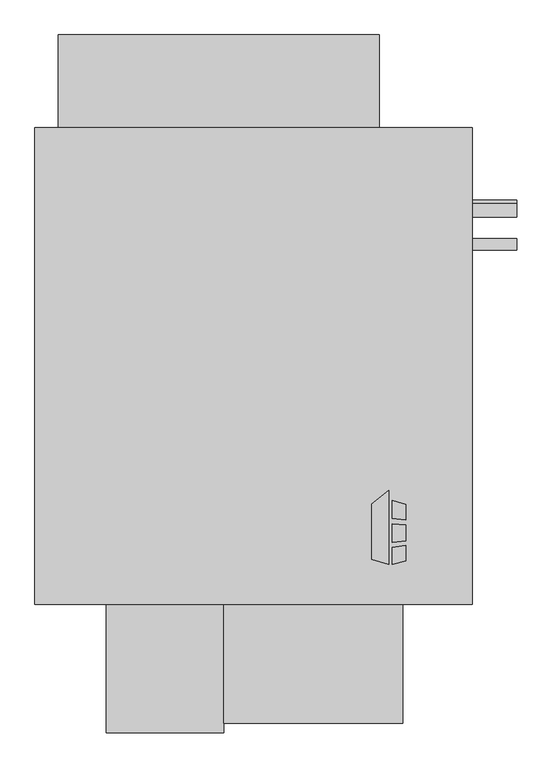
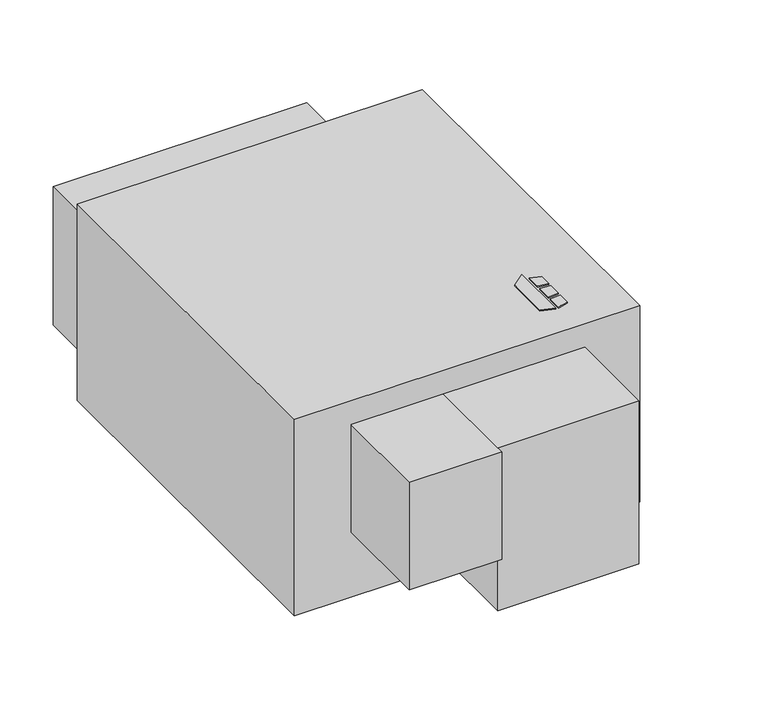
"""IFC4 building model written with IfcOpenShell, lengths in millimetres: proxy geometry, Horizontal_Direct_Drive_Blower_Coil_Unit_-_HDY_-_IEC_-_2-Pipe_Cool-EHeat_RH_2022 : Size 06 - 460v/60Hz/3Ph - 8 Row 6.0kW."""

from ifc_helpers import new_model, si_unit, point, frame, frame_2d, origin, origin_with_axes, place, context, project, spatial, polyline, circle_curve, trimmed, segment, composite_curve, outline, extrude, source, transform, mapped, element, save


def mechanical_equipment_03528db8(model_context):
    return source(origin(), model_context, "Body", "SweptSolid", [
        extrude(outline(polyline([(-420.9980239, -229.5578476), (-388.4397272, -204.1205184), (-388.4397272, -346.075), (-420.9980239, -335.8554201), (-420.9980239, -229.5578476)])), origin_with_axes(), (0.0, 0.0, 1.0), 3.175),
        extrude(outline(polyline([(-381.6813942, -257.429852), (-381.6813942, -222.9499379), (-355.6, -231.1365115), (-355.6, -260.6322446), (-381.6813942, -257.429852)])), origin_with_axes(), (0.0, 0.0, 1.0), 3.175),
        extrude(outline(polyline([(-355.6, -339.0865115), (-381.6813942, -346.075), (-381.6813942, -312.8536996), (-355.6, -309.3118564), (-355.6, -339.0865115)])), origin_with_axes(), (0.0, 0.0, 1.0), 3.175),
        extrude(outline(polyline([(-355.6, -269.7138277), (-355.6, -300.963983), (-381.6813942, -303.705248), (-381.6813942, -267.8475378), (-355.6, -269.7138277)])), origin_with_axes(), (0.0, 0.0, 1.0), 3.175),
        extrude(outline(polyline([(-228.6, 492.125), (-228.6, -422.275), (-1066.8, -422.275), (-1066.8, 492.125), (-228.6, 492.125)])), frame((0.0, 0.0, -504.8058174), z_axis=(0.0, 0.0, 1.0), x_axis=(1.0, 0.0, 0.0)), (0.0, 0.0, 1.0), 504.8058174),
        extrude(outline(polyline([(-361.95, -650.875), (-704.85, -650.875), (-704.85, -422.275), (-361.95, -422.275), (-361.95, -650.875)])), frame((0.0, 0.0, -479.4058174), z_axis=(0.0, 0.0, 1.0), x_axis=(1.0, 0.0, 0.0)), (0.0, 0.0, 1.0), 419.1),
        extrude(outline(composite_curve([segment(trimmed(circle_curve(frame_2d((333.375, -177.8)), 12.7), [point((346.075, -177.8))], [point((320.675, -177.8))], False, "CARTESIAN"), True, "CONTINUOUS"), segment(trimmed(circle_curve(frame_2d((333.375, -177.8)), 12.7), [point((320.675, -177.8))], [point((346.075, -177.8))], False, "CARTESIAN"), True, "CONTINUOUS")], self_intersect=False)), frame((-228.6, 0.0, 0.0), z_axis=(1.0, 0.0, 0.0), x_axis=(0.0, 1.0, 0.0)), (0.0, 0.0, 1.0), 85.2932),
        extrude(outline(composite_curve([segment(trimmed(circle_curve(frame_2d((340.130856, -377.8058174)), 12.7), [point((352.830856, -377.8058174))], [point((327.430856, -377.8058174))], False, "CARTESIAN"), True, "CONTINUOUS"), segment(trimmed(circle_curve(frame_2d((340.130856, -377.8058174)), 12.7), [point((327.430856, -377.8058174))], [point((352.830856, -377.8058174))], False, "CARTESIAN"), True, "CONTINUOUS")], self_intersect=False)), frame((-228.6, 0.0, 0.0), z_axis=(1.0, 0.0, 0.0), x_axis=(0.0, 1.0, 0.0)), (0.0, 0.0, 1.0), 85.2932),
        extrude(outline(composite_curve([segment(trimmed(circle_curve(frame_2d((268.4630494, -460.3558174)), 11.1125), [point((279.5755494, -460.3558174))], [point((257.3505494, -460.3558174))], False, "CARTESIAN"), True, "CONTINUOUS"), segment(trimmed(circle_curve(frame_2d((268.4630494, -460.3558174)), 11.1125), [point((257.3505494, -460.3558174))], [point((279.5755494, -460.3558174))], False, "CARTESIAN"), True, "CONTINUOUS")], self_intersect=False)), frame((-228.6, 0.0, 0.0), z_axis=(1.0, 0.0, 0.0), x_axis=(0.0, 1.0, 0.0)), (0.0, 0.0, 1.0), 85.2932),
        extrude(outline(polyline([(-1022.35, 669.925), (-406.4, 669.925), (-406.4, 492.125), (-1022.35, 492.125), (-1022.35, 669.925)])), frame((0.0, 0.0, -434.9558174), z_axis=(0.0, 0.0, 1.0), x_axis=(1.0, 0.0, 0.0)), (0.0, 0.0, 1.0), 355.6),
        extrude(outline(polyline([(-704.85, -668.3375), (-930.275, -668.3375), (-930.275, -422.275), (-704.85, -422.275), (-704.85, -668.3375)])), frame((0.0, 0.0, -336.5308174), z_axis=(0.0, 0.0, 1.0), x_axis=(1.0, 0.0, 0.0)), (0.0, 0.0, 1.0), 276.225),
    ])


if __name__ == "__main__":
    model = new_model("IFC4")
    model_context = context("Model", 3, world=origin())
    ifc_project = project(units=[si_unit("LENGTHUNIT", "METRE", prefix="MILLI")], contexts=[model_context])
    site = spatial("IfcSite", under=ifc_project)
    building = spatial("IfcBuilding", under=site)
    placement = place(None, origin())
    mechanical_equipment_shape = mechanical_equipment_03528db8(model_context)
    element("IfcBuildingElementProxy", 1, Name="Horizontal_Direct_Drive_Blower_Coil_Unit_-_HDY_-_IEC_-_2-Pipe_Cool-EHeat_RH_2022 : Size 06 - 460v/60Hz/3Ph - 8 Row 6.0kW", ObjectType="Horizontal_Direct_Drive_Blower_Coil_Unit_-_HDY_-_IEC_-_2-Pipe_Cool-EHeat_RH_2022 : Size 06 - 460v/60Hz/3Ph - 8 Row 6.0kW", at=placement, inside=building, context=model_context, shape_type="MappedRepresentation", body=[
        mapped(mechanical_equipment_shape, transform((0.0, 0.0, 0.0), x_axis=(1.0, 0.0, 0.0), y_axis=(0.0, 1.0, 0.0), z_axis=(0.0, 0.0, 1.0))),
    ])
    save(model, "model.ifc")
